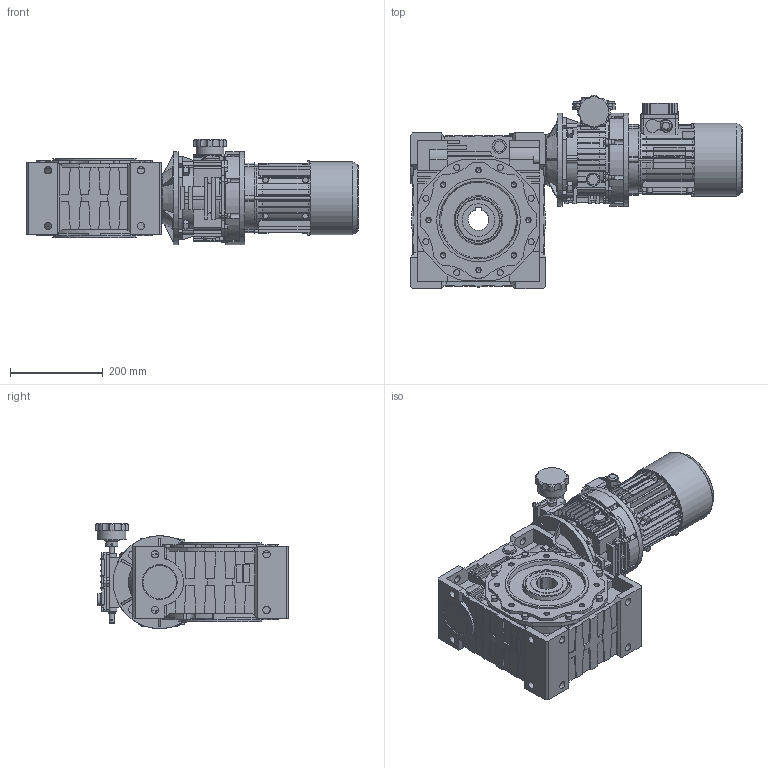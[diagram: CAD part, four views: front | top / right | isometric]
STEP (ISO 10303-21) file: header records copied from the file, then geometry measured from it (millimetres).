
FILE_DESCRIPTION(/* description */ ('STEP AP203'),/* implementation_level */ '2;1');
FILE_NAME(/* name */ 'TXF_NMRV_010_130_200x19_200x24_45_BS_B3_CM_1_AD_TP_080_80B4_IC411_B5_A002_STD_1',/* time_stamp */ '2026-07-06T04:03:12+02:00',/* author */ ('License CC BY-ND 4.0'),/* organization */ ('CADENAS'),/* preprocessor_version */ 'ST-DEVELOPER v20',/* originating_system */ 'PARTsolutions',/* authorisation */ ' ');
FILE_SCHEMA (('CONFIG_CONTROL_DESIGN'));
Products named in the file (19): TXF/NMRV 010/130 200x19 200x24 45 BS/B3 CM 1 AD TP 080 80B4 IC411 B5 
A002 STD 1; Gear unit 130; 130-45 (170)alc-n; VB 130-24 (24); 130-90 B5; TXF010200x1920024x50CMAD1-TP08080B4IC411B5--A002STD1-d; Body-6010012-TXF; 601006; 601003200(200x19); 601017; FLANGIA_TP080B5-; CARCASSA_TP80B4080IC411B519X40NONO--; COPRIMORSETTIERA_TP080A002; PRESSACAVO_2; COP_TP_80B4_IC411_NO_-_-_-_-_STD; ALBERO_TP08019X40NO; 601027242(24x50); 601033(010); 60109942(010)
Assembly tree (18 placements, depth 2):
  TXF/NMRV 010/130 200x19 200x24 45 BS/B3 CM 1 AD TP 080 80B4 IC411 B5 
A002 STD 1
    Gear unit 130
    130-45 (170)alc-n
    VB 130-24 (24)
    130-90 B5
    TXF010200x1920024x50CMAD1-TP08080B4IC411B5--A002STD1-d
    Body-6010012-TXF
    601006
    601003200(200x19)
    601017
    FLANGIA_TP080B5-
    CARCASSA_TP80B4080IC411B519X40NONO--
    COPRIMORSETTIERA_TP080A002
    PRESSACAVO_2
    COP_TP_80B4_IC411_NO_-_-_-_-_STD
    ALBERO_TP08019X40NO
    601027242(24x50)
    601033(010)
    60109942(010)
Bounding box: 714.7 x 415.94 x 226.5 mm (x, y, z)
Volume: 21788508.4 mm3; surface area: 1568678.2 mm2
Topology: 17 solids, 17 shells, 3540 faces, 9800 edges, 6504 vertices
Faces by surface type: plane 2232, cylinder 1179, cone 119, torus 6, sphere 4
Full cylindrical faces by diameter (mm): 1.8 x1, 2.02 x1, 3.675 x3, 4 x3, 4.917 x1, 5 x4, 6 x8, 6.4 x1, 6.647 x5, 8 x4, 8.4 x1, 8.5 x6, 9 x1, 10 x16, 10.106 x16, 11 x4, 11.5 x4, 12 x2, 13 x14, 14 x2, 16 x12, 19 x1, 20 x3, 22 x1, 24 x1, 26 x3, 28 x2, 28.5 x2, 29 x1, 30 x6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
Entity records: 112439 total; most frequent: CARTESIAN_POINT 20626, DIRECTION 19143, ORIENTED_EDGE 18974, EDGE_CURVE 9487, VERTEX_POINT 6449, AXIS2_PLACEMENT_3D 6418, LINE 6307, VECTOR 6307
